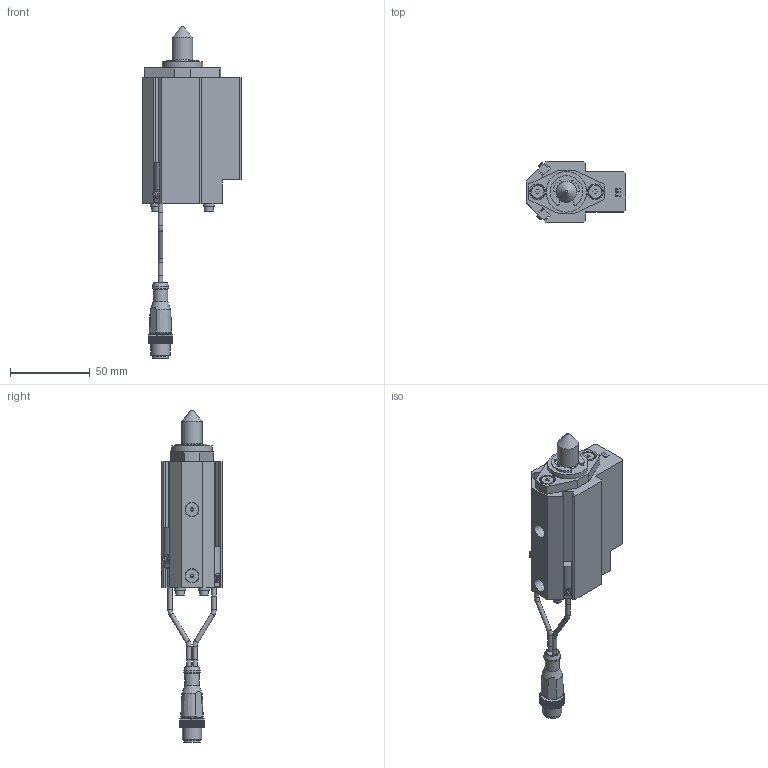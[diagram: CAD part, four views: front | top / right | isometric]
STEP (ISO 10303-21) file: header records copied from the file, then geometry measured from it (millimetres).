
FILE_DESCRIPTION(/* description */ ('NAAMS FLOATING MICRO PIN'),/* implementation_level */ '2;1');
FILE_NAME(/* name */ 'C:\Vault Workspace\CAD\Welker\Shot Pin\NMP\NMP130012AENL3.stp',/* time_stamp */ '2021-01-27T10:59:47-05:00',/* author */ ('WELKER'),/* organization */ (''),/* preprocessor_version */ 'ST-DEVELOPER v18.1',/* originating_system */ 'Autodesk Inventor 2020',/* authorisation */ '');
FILE_SCHEMA (('AUTOMOTIVE_DESIGN { 1 0 10303 214 3 1 1 }'));
Length unit declared in the file: millimetre
Products named in the file (16): NMPL01; NMP L3 SWITCH; L3 Connector; L3 Sensor 1; L3 Sensor 2; L3 Sensor cable; L3 Sensor cable 2; M3X0.5-8 SHCS; NL3; NMPE06; NMPE03; NMPE05-DIA-LENGTH; 985432A218; NMPE01E-PORT; RMPE02; M5X5 SHOULDER
Assembly tree (22 placements, depth 3):
  NMPL01
    NMP L3 SWITCH
      L3 Connector
      L3 Sensor 1
      L3 Sensor 2
      L3 Sensor cable
      L3 Sensor cable 2
    M3X0.5-8 SHCS  x4
    NL3  x4
    NMPE06
    NMPE03
    NMPE05-DIA-LENGTH
    985432A218
    NMPE01E-PORT
    RMPE02
    M5X5 SHOULDER  x2
Bounding box: 62 x 38.1 x 207.71 mm (x, y, z)
Volume: 114151.4 mm3; surface area: 44712.2 mm2
Topology: 21 solids, 21 shells, 746 faces, 2025 edges, 1353 vertices
Faces by surface type: plane 552, cylinder 143, cone 35, torus 11, sphere 3, bspline 2
Full cylindrical faces by diameter (mm): 2 x2, 2.459 x4, 2.9 x10, 3 x5, 3.242 x2, 3.4 x4, 4 x2, 5 x6, 5.5 x4, 6.647 x2, 7 x4, 8 x2, 8.3 x2, 9 x3, 10 x3, 10.4 x1, 10.5 x1, 12 x1, 13 x3, 16 x2, 19.05 x3, 21 x1, 22.5 x1, 23.672 x1, 24 x1, 25.4 x1, 25.5 x1, 26.5 x1, 28.677 x1, 29.21 x1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
Entity records: 22794 total; most frequent: CARTESIAN_POINT 4170, ORIENTED_EDGE 3742, DIRECTION 3723, EDGE_CURVE 1871, LINE 1387, VECTOR 1387, VERTEX_POINT 1258, AXIS2_PLACEMENT_3D 1168
